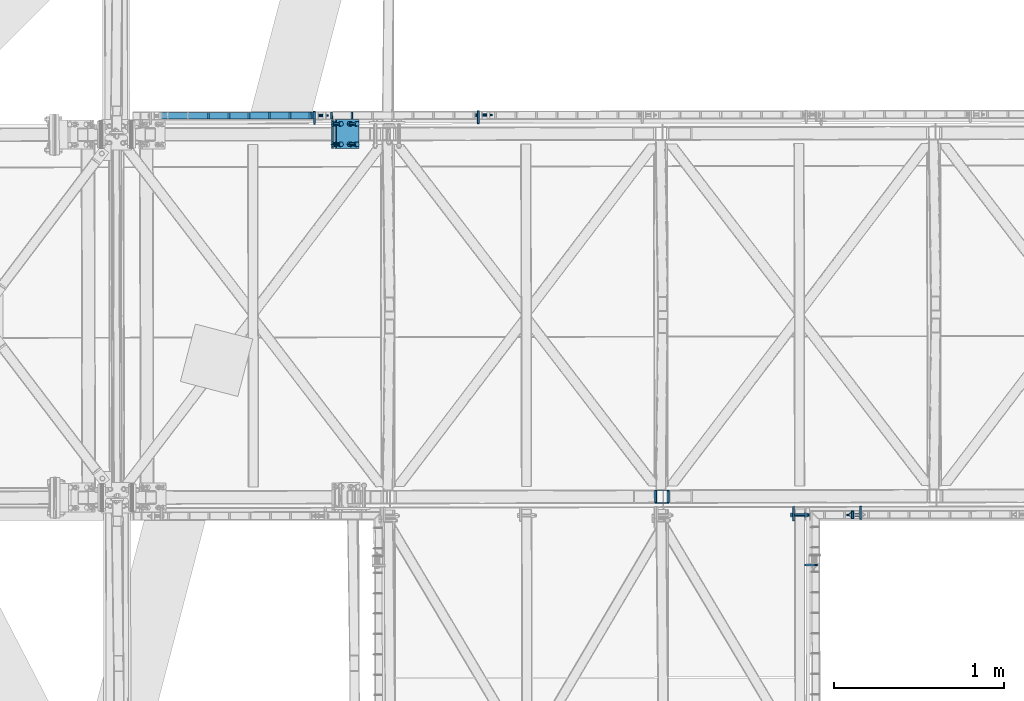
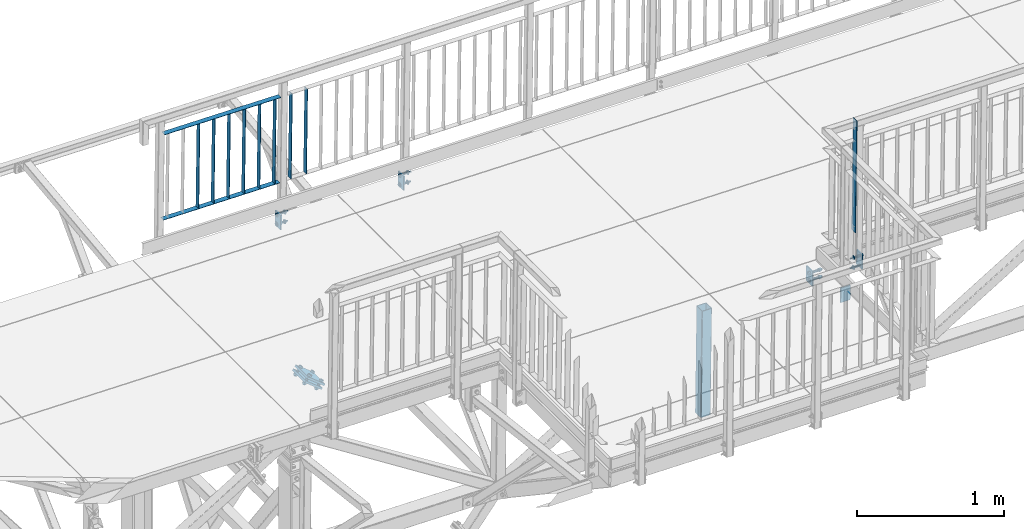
# One storey, part 111 of 169: 20 discrete accessories, 5 mechanical fasteners, 5 elements without a shape of their own.
"""IFC2X3 building model written with IfcOpenShell, lengths in millimetres."""

import ifcopenshell
import ifcopenshell.guid

model = None  # the IFC model being written
_history = None  # IfcOwnerHistory: only IFC2X3 demands one
_inside = {}  # id of a spatial element -> (the spatial element, [elements in it])
_under = {}  # id of a project, library or spatial element -> (it, [spatial elements below it])
_declared = {}  # id of a project -> (the project, [libraries it declares])
_typed = {}  # id of a type object -> (the type object, [elements of that type])
_made_of = {}  # id of a material, layer set ... -> (it, [elements and type objects made of it])


def new_model(schema):
    """Start an empty IFC model of exactly this schema.

    Asked for "IFC4X3", IfcOpenShell would pick the latest addendum, in which some entities
    have other attributes; the version numbers below select the first issue.
    IFC2X3 requires an IfcOwnerHistory on every rooted entity: one is made here for all.
    """
    global model, _history
    if schema == "IFC4X3":
        model = ifcopenshell.file(schema_version=(4, 3, 0, 0))
    else:
        model = ifcopenshell.file(schema=schema)
    _inside.clear()
    _under.clear()
    _declared.clear()
    _typed.clear()
    _made_of.clear()
    _history = None
    if model.schema == "IFC2X3":
        org = make("IfcOrganization", Name="unknown")
        user = make(
            "IfcPersonAndOrganization",
            ThePerson=make("IfcPerson", FamilyName="unknown"),
            TheOrganization=org,
        )
        app = make(
            "IfcApplication",
            ApplicationDeveloper=org,
            Version="unknown",
            ApplicationFullName="unknown",
            ApplicationIdentifier="unknown",
        )
        _history = make(
            "IfcOwnerHistory",
            OwningUser=user,
            OwningApplication=app,
            ChangeAction="ADDED",
            CreationDate=0,
        )
    return model


def make(cls, **values):
    """One entity of the class cls with the attributes given. An attribute that is None is left unset."""
    return model.create_entity(
        cls, **{name: value for name, value in values.items() if value is not None}
    )


def rooted(cls, **values):
    """An entity with a GlobalId (a new one), such as an element, a storey or a relation."""
    return make(cls, GlobalId=ifcopenshell.guid.new(), OwnerHistory=_history, **values)


def si_unit(unit_type, name, prefix=None):
    """IfcSIUnit, for example si_unit("LENGTHUNIT", "METRE", prefix="MILLI")."""
    return make("IfcSIUnit", UnitType=unit_type, Prefix=prefix, Name=name)


def assignment(units):
    """IfcUnitAssignment: the units of a project."""
    return None if units is None else make("IfcUnitAssignment", Units=units)


def point(xyz):
    """IfcCartesianPoint."""
    return None if xyz is None else make("IfcCartesianPoint", Coordinates=xyz)


def direction(xyz):
    """IfcDirection."""
    return None if xyz is None else make("IfcDirection", DirectionRatios=xyz)


def frame(location, z_axis=None, x_axis=None):
    """IfcAxis2Placement3D, a coordinate frame: its origin and axes. An axis left out is left unset."""
    return make(
        "IfcAxis2Placement3D",
        Location=point(location),
        Axis=direction(z_axis),
        RefDirection=direction(x_axis),
    )


def frame_2d(location, x_axis=None):
    """IfcAxis2Placement2D, a coordinate frame in the plane: its origin and x axis."""
    return make(
        "IfcAxis2Placement2D", Location=point(location), RefDirection=direction(x_axis)
    )


def origin_with_axes():
    """The frame at (0, 0, 0) with the z axis (0, 0, 1) and the x axis (1, 0, 0) written out."""
    return frame((0.0, 0.0, 0.0), z_axis=(0.0, 0.0, 1.0), x_axis=(1.0, 0.0, 0.0))


def origin_2d_with_axis():
    """The frame at (0, 0) in the plane with the x axis (1, 0) written out."""
    return frame_2d((0.0, 0.0), x_axis=(1.0, 0.0))


def place(relative_to, where):
    """IfcLocalPlacement: puts the frame where relative to a parent placement (None: the world)."""
    return make(
        "IfcLocalPlacement", PlacementRelTo=relative_to, RelativePlacement=where
    )


def context(
    kind, dimensions, precision=None, world=None, true_north=None, identifier=None
):
    """IfcGeometricRepresentationContext, for example the 3D "Model" context."""
    return make(
        "IfcGeometricRepresentationContext",
        ContextIdentifier=identifier,
        ContextType=kind,
        CoordinateSpaceDimension=dimensions,
        Precision=precision,
        WorldCoordinateSystem=world,
        TrueNorth=true_north,
    )


def subcontext(parent, identifier, kind, view, scale=None):
    """IfcGeometricRepresentationSubContext, for example "Body" below "Model"."""
    return make(
        "IfcGeometricRepresentationSubContext",
        ContextIdentifier=identifier,
        ContextType=kind,
        ParentContext=parent,
        TargetScale=scale,
        TargetView=view,
    )


def project(units=None, contexts=None):
    """IfcProject with its units and contexts."""
    return rooted(
        "IfcProject",
        Name="project",
        RepresentationContexts=contexts,
        UnitsInContext=assignment(units),
    )


def spatial(cls, under=None, at=None, **own):
    """A site, building, storey or space (cls), placed at a placement, below another one or the project."""
    s = rooted(cls, ObjectPlacement=at, **own)
    if under is not None:
        _under.setdefault(under.id(), (under, []))[1].append(s)
    return s


def polyline(points):
    """IfcPolyline through the points."""
    return make("IfcPolyline", Points=[point(p) for p in points])


def circle_curve(where, radius):
    """IfcCircle in the frame where."""
    return make("IfcCircle", Position=where, Radius=radius)


def parameter(value):
    """IfcParameterValue: where a trimmed curve begins or ends, as a parameter of its basis curve."""
    return model.create_entity("IfcParameterValue", value)


def trimmed(basis, trim1, trim2, sense, master):
    """IfcTrimmedCurve: the piece of a basis curve between two trims."""
    return make(
        "IfcTrimmedCurve",
        BasisCurve=basis,
        Trim1=trim1,
        Trim2=trim2,
        SenseAgreement=sense,
        MasterRepresentation=master,
    )


def segment(curve, same_sense, transition):
    """IfcCompositeCurveSegment."""
    return make(
        "IfcCompositeCurveSegment",
        Transition=transition,
        SameSense=same_sense,
        ParentCurve=curve,
    )


def composite_curve(segments, self_intersect=None):
    """IfcCompositeCurve: segments joined end to end."""
    return make("IfcCompositeCurve", Segments=segments, SelfIntersect=self_intersect)


def profile(cls, at=None, kind="AREA", **sizes):
    """A parametric profile (cls). Its sizes go by their IFC names, for example OverallWidth=200.0."""
    return make(cls, ProfileType=kind, Position=at, **sizes)


def rectangle(**sizes):
    """IfcRectangleProfileDef."""
    return profile("IfcRectangleProfileDef", **sizes)


def hollow_rectangle(**sizes):
    """IfcRectangleHollowProfileDef."""
    return profile("IfcRectangleHollowProfileDef", **sizes)


def circle(**sizes):
    """IfcCircleProfileDef."""
    return profile("IfcCircleProfileDef", **sizes)


def outline(outer, holes=None, kind="AREA"):
    """IfcArbitraryClosedProfileDef: a profile drawn as a closed curve; with holes, ...WithVoids."""
    if holes is None:
        return make("IfcArbitraryClosedProfileDef", ProfileType=kind, OuterCurve=outer)
    return make(
        "IfcArbitraryProfileDefWithVoids",
        ProfileType=kind,
        OuterCurve=outer,
        InnerCurves=holes,
    )


def extrude(swept, where, along, depth):
    """IfcExtrudedAreaSolid: the profile swept, set in the frame where, extruded along a direction by depth."""
    return make(
        "IfcExtrudedAreaSolid",
        SweptArea=swept,
        Position=where,
        ExtrudedDirection=direction(along),
        Depth=depth,
    )


def boolean(op, a, b):
    """IfcBooleanResult of two solids."""
    return make("IfcBooleanResult", Operator=op, FirstOperand=a, SecondOperand=b)


def clip(a, b, op="DIFFERENCE"):
    """IfcBooleanClippingResult: the solid a cut by the half space b."""
    return make(
        "IfcBooleanClippingResult", Operator=op, FirstOperand=a, SecondOperand=b
    )


def halfspace(plane, agree):
    """IfcHalfSpaceSolid: all space on one side of the plane z = 0 of the frame plane."""
    return make(
        "IfcHalfSpaceSolid",
        BaseSurface=make("IfcPlane", Position=plane),
        AgreementFlag=agree,
    )


def shape(context_of_items, identifier, shape_type, items):
    """IfcShapeRepresentation: the items that make up one representation, for example the "Body"."""
    return make(
        "IfcShapeRepresentation",
        ContextOfItems=context_of_items,
        RepresentationIdentifier=identifier,
        RepresentationType=shape_type,
        Items=items,
    )


def source(mapping_origin, context_of_items, identifier, shape_type, items):
    """IfcRepresentationMap: a shape defined once, which mapped items show again and again."""
    return make(
        "IfcRepresentationMap",
        MappingOrigin=mapping_origin,
        MappedRepresentation=shape(context_of_items, identifier, shape_type, items),
    )


def transform(
    local_origin,
    x_axis=None,
    y_axis=None,
    z_axis=None,
    scale=None,
    scale2=None,
    scale3=None,
    uniform=True,
):
    """IfcCartesianTransformationOperator3D, or its non-uniform kind. x_axis, y_axis, z_axis: its Axis1, 2, 3."""
    if uniform:
        return make(
            "IfcCartesianTransformationOperator3D",
            Axis1=direction(x_axis),
            Axis2=direction(y_axis),
            LocalOrigin=point(local_origin),
            Scale=scale,
            Axis3=direction(z_axis),
        )
    return make(
        "IfcCartesianTransformationOperator3DnonUniform",
        Axis1=direction(x_axis),
        Axis2=direction(y_axis),
        LocalOrigin=point(local_origin),
        Scale=scale,
        Axis3=direction(z_axis),
        Scale2=scale2,
        Scale3=scale3,
    )


def mapped(mapping_source, mapping_target):
    """IfcMappedItem: shows the shape of a source again, moved by a transform."""
    return make(
        "IfcMappedItem", MappingSource=mapping_source, MappingTarget=mapping_target
    )


def material(Name=None, Category=None):
    """IfcMaterial."""
    return make("IfcMaterial", Name=Name, Category=Category)


def made_of(thing, what):
    """Note that an element or type object is made of a material, layer set ...; save() writes the relation."""
    if what is not None:
        _made_of.setdefault(what.id(), (what, []))[1].append(thing)
    return thing


def type_object(cls, material=None, **own):
    """A type object (cls), such as IfcWallType, which elements share."""
    return made_of(rooted(cls, **own), material)


def element(
    cls,
    number,
    at=None,
    inside=None,
    cuts=None,
    type_object=None,
    material=None,
    context=None,
    identifier="Body",
    shape_type=None,
    held_by="IfcProductDefinitionShape",
    body=None,
    shapes=None,
    **own,
):
    """One element of the class cls, such as IfcWall. Its Tag is "e" and its number.

    at: its placement. inside: the storey or other place that contains it. cuts: it is an
    opening in that element (IfcRelVoidsElement). A single representation is given by context,
    identifier, shape_type and body (its items); several are given by shapes. held_by: the class
    of the entity that holds the representations. save() writes the other relations.
    """
    e = rooted(cls, Tag="e%d" % number, ObjectPlacement=at, **own)
    if body is not None:
        shapes = [shape(context, identifier, shape_type, body)]
    if shapes is not None:
        e.Representation = make(held_by, Representations=shapes)
    if inside is not None:
        _inside.setdefault(inside.id(), (inside, []))[1].append(e)
    if cuts is not None:
        rooted(
            "IfcRelVoidsElement", RelatingBuildingElement=cuts, RelatedOpeningElement=e
        )
    if type_object is not None:
        _typed.setdefault(type_object.id(), (type_object, []))[1].append(e)
    return made_of(e, material)


def aggregate(whole, parts):
    """IfcRelAggregates: a whole, such as a stair, and the parts it consists of."""
    return rooted("IfcRelAggregates", RelatingObject=whole, RelatedObjects=parts)


def save(model, path):
    """Write the relations noted so far, then the file.

    IfcRelAggregates (storeys below a building ...), IfcRelContainedInSpatialStructure (elements
    in a storey), IfcRelDefinesByType, IfcRelAssociatesMaterial and IfcRelDeclares: one each for
    every whole, place, type object, material and project.
    """
    for whole, parts in _under.values():
        aggregate(whole, parts)
    for where, things in _inside.values():
        rooted(
            "IfcRelContainedInSpatialStructure",
            RelatedElements=things,
            RelatingStructure=where,
        )
    for kind, things in _typed.values():
        rooted("IfcRelDefinesByType", RelatedObjects=things, RelatingType=kind)
    for what, things in _made_of.values():
        rooted("IfcRelAssociatesMaterial", RelatedObjects=things, RelatingMaterial=what)
    for by, libraries in _declared.values():
        rooted("IfcRelDeclares", RelatingContext=by, RelatedDefinitions=libraries)
    model.write(path)


model = new_model("IFC2X3")

# Units and contexts
model_context = context("Model", 3, precision=1e-05, world=origin_with_axes())
body_context = subcontext(model_context, "Body", "Model", "MODEL_VIEW")
ifc_project = project(units=[si_unit("LENGTHUNIT", "METRE", prefix="MILLI"), si_unit("AREAUNIT", "SQUARE_METRE"), si_unit("VOLUMEUNIT", "CUBIC_METRE"), si_unit("MASSUNIT", "GRAM", prefix="KILO"), si_unit("TIMEUNIT", "SECOND"), si_unit("PLANEANGLEUNIT", "RADIAN"), si_unit("SOLIDANGLEUNIT", "STERADIAN"), si_unit("THERMODYNAMICTEMPERATUREUNIT", "DEGREE_CELSIUS"), si_unit("LUMINOUSINTENSITYUNIT", "LUMEN")], contexts=[model_context])

# Site, building, storey
site_placement = place(None, origin_with_axes())
site = spatial("IfcSite", under=ifc_project, at=site_placement, Name="Undefined", CompositionType="ELEMENT")
building_placement = place(site_placement, origin_with_axes())
building = spatial("IfcBuilding", under=site, at=building_placement, Name="Undefined", CompositionType="ELEMENT")
storey_placement = place(building_placement, origin_with_axes())
storey = spatial("IfcBuildingStorey", under=building, at=storey_placement, Name="Undefined", CompositionType="ELEMENT", Elevation=0.0)

# Assembly, discrete accessories
assembly_1_placement = place(storey_placement, origin_with_axes())
assembly_1 = element("IfcElementAssembly", 1, at=assembly_1_placement, inside=storey, Name="Steel Assembly", AssemblyPlace="NOTDEFINED", PredefinedType="RIGID_FRAME")
ifc_material_1 = material(Name="STEEL/S235")
discrete_accessory_type_1 = type_object("IfcDiscreteAccessoryType", Name="BLACHA")
discrete_accessory_1_placement = place(assembly_1_placement, frame((8254.43885092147, 2320.41128077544, 13849.2717714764), z_axis=(0.9999174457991, 0.00186469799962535, -0.0127131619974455), x_axis=(-0.0018648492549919, 0.999998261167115, -4.2996762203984e-08)))
discrete_accessory_1 = element("IfcDiscreteAccessory", 2, at=discrete_accessory_1_placement, type_object=discrete_accessory_type_1, material=ifc_material_1, Name="BLACHA", ObjectType="BL10*120", context=body_context, shape_type="SweptSolid", body=[
    extrude(outline(polyline([(-5.35749222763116e-11, -59.9999999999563), (5.3567816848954e-11, 59.9999999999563), (75.0000002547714, 59.9999999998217), (75.0000002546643, -60.0000000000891), (-5.35749222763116e-11, -59.9999999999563)])), frame((-1.81898926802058e-12, -1.18000176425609e-16, -5.00000000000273), z_axis=(0.0, 0.0, 1.0), x_axis=(1.0, 0.0, 0.0)), (0.0, 0.0, 1.0), 10.0),
])
discrete_accessory_2_placement = place(assembly_1_placement, frame((7287.82419699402, 2318.60868851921, 13861.5615147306), z_axis=(0.9999174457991, 0.00186469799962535, -0.0127131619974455), x_axis=(-0.0018648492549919, 0.999998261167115, -4.2996762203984e-08)))
discrete_accessory_2 = element("IfcDiscreteAccessory", 3, at=discrete_accessory_2_placement, type_object=discrete_accessory_type_1, material=ifc_material_1, Name="BLACHA", ObjectType="BL10*120", context=body_context, shape_type="SweptSolid", body=[
    extrude(outline(polyline([(-5.35749222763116e-11, -59.9999999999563), (5.3567816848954e-11, 59.9999999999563), (75.0000002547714, 59.9999999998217), (75.0000002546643, -60.0000000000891), (-5.35749222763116e-11, -59.9999999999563)])), frame((-1.81898926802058e-12, -1.18000176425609e-16, -5.00000000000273), z_axis=(0.0, 0.0, 1.0), x_axis=(1.0, 0.0, 0.0)), (0.0, 0.0, 1.0), 10.0),
])

# Assembly, discrete accessory
assembly_2_placement = place(storey_placement, origin_with_axes())
assembly_2 = element("IfcElementAssembly", 4, at=assembly_2_placement, inside=storey, Name="Steel Assembly", AssemblyPlace="NOTDEFINED", PredefinedType="RIGID_FRAME")
discrete_accessory_3_placement = place(assembly_2_placement, frame((10178.2495339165, -281.005632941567, 13824.8739119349), z_axis=(0.00186484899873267, -0.999998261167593, 4.28757666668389e-08), x_axis=(0.9999174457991, 0.00186469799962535, -0.0127131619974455)))
discrete_accessory_3 = element("IfcDiscreteAccessory", 5, at=discrete_accessory_3_placement, type_object=discrete_accessory_type_1, material=ifc_material_1, Name="BLACHA", ObjectType="BL10*120", context=body_context, shape_type="SweptSolid", body=[
    extrude(outline(polyline([(-5.35749222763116e-11, -59.9999999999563), (5.3567816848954e-11, 59.9999999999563), (75.0000002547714, 59.9999999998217), (75.0000002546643, -60.0000000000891), (-5.35749222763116e-11, -59.9999999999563)])), frame((-1.81898926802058e-12, -1.18000176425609e-16, -5.00000000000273), z_axis=(0.0, 0.0, 1.0), x_axis=(1.0, 0.0, 0.0)), (0.0, 0.0, 1.0), 10.0),
])

assembly_3_placement = place(storey_placement, origin_with_axes())
assembly_3 = element("IfcElementAssembly", 6, at=assembly_3_placement, inside=storey, Name="Steel Assembly", AssemblyPlace="NOTDEFINED", PredefinedType="RIGID_FRAME")
discrete_accessory_4_placement = place(assembly_3_placement, frame((10453.3199067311, 39.5079025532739, 14080.3899411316), z_axis=(-0.999917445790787, -0.00186469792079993, 0.0127131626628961), x_axis=(0.00186484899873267, -0.999998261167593, 4.28757666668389e-08)))
discrete_accessory_4 = element("IfcDiscreteAccessory", 7, at=discrete_accessory_4_placement, type_object=discrete_accessory_type_1, material=ifc_material_1, Name="BLACHA", ObjectType="BL5*50", context=body_context, shape_type="SweptSolid", body=[
    extrude(outline(polyline([(0.0, 0.0), (50.0000000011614, 3.27418092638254e-11), (50.0000000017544, 926.000000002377), (3.10365066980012e-08, 926.000000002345), (0.0, 0.0)])), frame((6.80888809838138e-19, -2.87858853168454e-21, -2.49999999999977), z_axis=(0.0, 0.0, 1.0), x_axis=(1.0, 0.0, 0.0)), (0.0, 0.0, 1.0), 5.0),
])

# Discrete accessory
discrete_accessory_5_placement = place(assembly_1_placement, frame((10507.475835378, 64.6089279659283, 13820.6798644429), z_axis=(-0.999917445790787, -0.00186469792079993, 0.0127131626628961), x_axis=(0.00186484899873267, -0.999998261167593, 4.28757666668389e-08)))
discrete_accessory_5 = element("IfcDiscreteAccessory", 8, at=discrete_accessory_5_placement, type_object=discrete_accessory_type_1, material=ifc_material_1, Name="BLACHA", ObjectType="BL10*120", context=body_context, shape_type="SweptSolid", body=[
    extrude(outline(polyline([(75.0000002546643, -60.0000000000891), (-5.35749222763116e-11, -59.9999999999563), (5.3567816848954e-11, 59.9999999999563), (75.0000002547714, 59.9999999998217), (75.0000002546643, -60.0000000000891)])), frame((-1.81898926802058e-12, -1.18000176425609e-16, -5.00000000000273), z_axis=(0.0, 0.0, 1.0), x_axis=(1.0, 0.0, 0.0)), (0.0, 0.0, 1.0), 10.0),
])

# Assembly, discrete accessory
assembly_4_placement = place(storey_placement, origin_with_axes())
assembly_4 = element("IfcElementAssembly", 9, at=assembly_4_placement, inside=storey, Name="Steel Assembly", AssemblyPlace="NOTDEFINED", PredefinedType="RIGID_FRAME")
ifc_material_2 = material(Name="STEEL/S355")
discrete_accessory_6_placement = place(assembly_4_placement, frame((7526.57881452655, 2259.05382954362, 12487.42078595), z_axis=(-0.0018648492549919, 0.999998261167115, -4.2996762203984e-08), x_axis=(-0.784458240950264, -0.00146288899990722, 0.620179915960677)))
discrete_accessory_6 = element("IfcDiscreteAccessory", 10, at=discrete_accessory_6_placement, type_object=discrete_accessory_type_1, material=ifc_material_2, Name="BLACHA", ObjectType="BL16*170", context=body_context, shape_type="SweptSolid", body=[
    extrude(rectangle(XDim=16.0, YDim=170.0, at=origin_2d_with_axis()), frame((169.999999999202, 0.0, -3.62691994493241e-12), z_axis=(-1.0, -3.46944695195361e-18, -1.38777878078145e-17), x_axis=(1.73472347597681e-18, -1.0, 0.0)), (0.0, 0.0, 1.0), 170.0),
])

# Discrete accessory
discrete_accessory_7_placement = place(assembly_1_placement, frame((7546.42453772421, 2259.09083832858, 12512.5234929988), z_axis=(-0.0018648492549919, 0.999998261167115, -4.2996762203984e-08), x_axis=(-0.784458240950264, -0.00146288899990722, 0.620179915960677)))
discrete_accessory_7 = element("IfcDiscreteAccessory", 11, at=discrete_accessory_7_placement, type_object=discrete_accessory_type_1, material=ifc_material_2, Name="BLACHA", ObjectType="BL16*170", context=body_context, shape_type="SweptSolid", body=[
    extrude(rectangle(XDim=16.0, YDim=170.0, at=origin_2d_with_axis()), frame((169.999999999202, 0.0, -3.62691994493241e-12), z_axis=(-1.0, -3.46944695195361e-18, -1.38777878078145e-17), x_axis=(1.73472347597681e-18, -1.0, 0.0)), (0.0, 0.0, 1.0), 170.0),
])

discrete_accessory_type_2 = type_object("IfcDiscreteAccessoryType", Name="BEAM")
discrete_accessory_8_placement = place(assembly_1_placement, frame((9329.85004129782, 122.4128926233, 12835.5700898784), z_axis=(-0.999917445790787, -0.00186469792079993, 0.0127131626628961), x_axis=(0.012713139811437, 2.3750999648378e-05, 0.999919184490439)))
discrete_accessory_8 = element("IfcDiscreteAccessory", 12, at=discrete_accessory_8_placement, type_object=discrete_accessory_type_2, material=ifc_material_2, Name="BEAM", ObjectType="K80/4", context=body_context, shape_type="Clipping", body=[
    clip(clip(extrude(hollow_rectangle(XDim=80.0, YDim=80.0, WallThickness=4.0, InnerFilletRadius=4.0, OuterFilletRadius=8.0, at=origin_2d_with_axis()), frame((940.000112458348, 4.54747487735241e-13, 0.0), z_axis=(-1.0, -3.46944695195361e-18, -1.38777878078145e-17), x_axis=(1.73472347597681e-18, -1.0, 0.0)), (0.0, 0.0, 1.0), 880.0), halfspace(frame((940.000112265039, -6.72889655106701e-09, 999.999999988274), z_axis=(-1.0, -3.46944695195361e-18, -1.38777878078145e-17), x_axis=(1.73472347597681e-18, -1.0, 0.0)), True)), halfspace(frame((60.0001122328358, 8.14088707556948e-09, 1000.00000001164), z_axis=(1.0, 0.0, 0.0), x_axis=(0.0, 1.0, 0.0)), True)),
])

# Assembly, discrete accessories
assembly_5_placement = place(storey_placement, origin_with_axes())
assembly_5 = element("IfcElementAssembly", 13, at=assembly_5_placement, inside=storey, Name="Steel Assembly", AssemblyPlace="NOTDEFINED", PredefinedType="RIGID_FRAME")
discrete_accessory_type_3 = type_object("IfcDiscreteAccessoryType", Name="PORĘCZ")
discrete_accessory_9_placement = place(assembly_5_placement, frame((6364.01766114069, 2366.88605238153, 14888.3878328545), z_axis=(-0.012713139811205, -2.37511238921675e-05, -0.999919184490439), x_axis=(0.9999174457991, 0.00186469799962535, -0.0127131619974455)))
discrete_accessory_9 = element("IfcDiscreteAccessory", 14, at=discrete_accessory_9_placement, type_object=discrete_accessory_type_3, material=ifc_material_1, Name="PORĘCZ", ObjectType="BL40*3", context=body_context, shape_type="CSG", body=[
    boolean("DIFFERENCE", boolean("DIFFERENCE", extrude(outline(polyline([(25.4999999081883, 20.0000000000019), (941.194458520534, 20.0000000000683), (941.194458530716, -19.9999999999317), (25.499999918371, -19.9999999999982), (25.4999999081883, 20.0000000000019)])), frame((1.81898940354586e-12, -1.77635442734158e-15, -1.50000000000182), z_axis=(0.0, 0.0, 1.0), x_axis=(1.0, 0.0, 0.0)), (0.0, 0.0, 1.0), 3.0), extrude(rectangle(XDim=51.0, YDim=51.0, at=origin_2d_with_axis()), frame((-5.94487782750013e-08, -4.65977194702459e-09, -139.999999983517), z_axis=(0.0, 0.0, 1.0), x_axis=(1.0, 0.0, 0.0)), (0.0, 0.0, 1.0), 280.0)), extrude(rectangle(XDim=51.0, YDim=51.0, at=origin_2d_with_axis()), frame((966.694458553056, -6.96000839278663e-09, -139.999999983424), z_axis=(0.0, 0.0, 1.0), x_axis=(1.0, 0.0, 0.0)), (0.0, 0.0, 1.0), 280.0)),
])
discrete_accessory_10_placement = place(assembly_5_placement, frame((6669.18325300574, 2367.45514726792, 15029.5196121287), z_axis=(0.00186484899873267, -0.999998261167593, 4.28757666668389e-08), x_axis=(-0.012713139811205, -2.37511238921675e-05, -0.999919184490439)))
discrete_accessory_10 = element("IfcDiscreteAccessory", 15, at=discrete_accessory_10_placement, type_object=discrete_accessory_type_3, material=ifc_material_1, Name="PORĘCZ", ObjectType="BL40*3", context=body_context, shape_type="Clipping", body=[
    clip(clip(extrude(rectangle(XDim=3.0, YDim=40.0, at=origin_2d_with_axis()), frame((848.500000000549, 1.47191286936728e-15, -8.89750592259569e-16), z_axis=(-1.0, -3.46944695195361e-18, -1.38777878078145e-17), x_axis=(1.73472347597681e-18, -1.0, 0.0)), (0.0, 0.0, 1.0), 702.0), halfspace(frame((848.499999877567, 4.522007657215e-09, 1000.00000000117), z_axis=(-1.0, -3.46944695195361e-18, -1.38777878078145e-17), x_axis=(1.73472347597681e-18, -1.0, 0.0)), True)), halfspace(frame((146.499999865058, 4.97311702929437e-09, 1000.00000000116), z_axis=(1.0, 0.0, 0.0), x_axis=(0.0, 1.0, 0.0)), True)),
])
discrete_accessory_11_placement = place(assembly_5_placement, frame((6789.17334650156, 2367.67891102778, 15027.994032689), z_axis=(0.00186484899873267, -0.999998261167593, 4.28757666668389e-08), x_axis=(-0.012713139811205, -2.37511238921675e-05, -0.999919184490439)))
discrete_accessory_11 = element("IfcDiscreteAccessory", 16, at=discrete_accessory_11_placement, type_object=discrete_accessory_type_3, material=ifc_material_1, Name="PORĘCZ", ObjectType="BL40*3", context=body_context, shape_type="Clipping", body=[
    clip(clip(extrude(rectangle(XDim=3.0, YDim=40.0, at=origin_2d_with_axis()), frame((848.500000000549, 1.47191286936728e-15, -8.89750592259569e-16), z_axis=(-1.0, -3.46944695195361e-18, -1.38777878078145e-17), x_axis=(1.73472347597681e-18, -1.0, 0.0)), (0.0, 0.0, 1.0), 702.0), halfspace(frame((848.499999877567, 4.522007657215e-09, 1000.00000000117), z_axis=(-1.0, -3.46944695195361e-18, -1.38777878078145e-17), x_axis=(1.73472347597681e-18, -1.0, 0.0)), True)), halfspace(frame((146.499999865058, 4.97311702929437e-09, 1000.00000000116), z_axis=(1.0, 0.0, 0.0), x_axis=(0.0, 1.0, 0.0)), True)),
])
discrete_accessory_12_placement = place(assembly_5_placement, frame((6909.1634399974, 2367.90267478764, 15026.4684532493), z_axis=(0.00186484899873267, -0.999998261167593, 4.28757666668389e-08), x_axis=(-0.012713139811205, -2.37511238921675e-05, -0.999919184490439)))
discrete_accessory_12 = element("IfcDiscreteAccessory", 17, at=discrete_accessory_12_placement, type_object=discrete_accessory_type_3, material=ifc_material_1, Name="PORĘCZ", ObjectType="BL40*3", context=body_context, shape_type="Clipping", body=[
    clip(clip(extrude(rectangle(XDim=3.0, YDim=40.0, at=origin_2d_with_axis()), frame((848.500000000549, 1.47191286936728e-15, -8.89750592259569e-16), z_axis=(-1.0, -3.46944695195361e-18, -1.38777878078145e-17), x_axis=(1.73472347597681e-18, -1.0, 0.0)), (0.0, 0.0, 1.0), 702.0), halfspace(frame((848.499999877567, 4.522007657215e-09, 1000.00000000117), z_axis=(-1.0, -3.46944695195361e-18, -1.38777878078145e-17), x_axis=(1.73472347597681e-18, -1.0, 0.0)), True)), halfspace(frame((146.499999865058, 4.97311702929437e-09, 1000.00000000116), z_axis=(1.0, 0.0, 0.0), x_axis=(0.0, 1.0, 0.0)), True)),
])
discrete_accessory_13_placement = place(assembly_5_placement, frame((7029.15353349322, 2368.12643854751, 15024.9428738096), z_axis=(0.00186484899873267, -0.999998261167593, 4.28757666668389e-08), x_axis=(-0.012713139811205, -2.37511238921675e-05, -0.999919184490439)))
discrete_accessory_13 = element("IfcDiscreteAccessory", 18, at=discrete_accessory_13_placement, type_object=discrete_accessory_type_3, material=ifc_material_1, Name="PORĘCZ", ObjectType="BL40*3", context=body_context, shape_type="Clipping", body=[
    clip(clip(extrude(rectangle(XDim=3.0, YDim=40.0, at=origin_2d_with_axis()), frame((848.500000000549, 1.47191286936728e-15, -8.89750592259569e-16), z_axis=(-1.0, -3.46944695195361e-18, -1.38777878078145e-17), x_axis=(1.73472347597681e-18, -1.0, 0.0)), (0.0, 0.0, 1.0), 702.0), halfspace(frame((848.499999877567, 4.522007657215e-09, 1000.00000000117), z_axis=(-1.0, -3.46944695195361e-18, -1.38777878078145e-17), x_axis=(1.73472347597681e-18, -1.0, 0.0)), True)), halfspace(frame((146.499999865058, 4.97311702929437e-09, 1000.00000000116), z_axis=(1.0, 0.0, 0.0), x_axis=(0.0, 1.0, 0.0)), True)),
])
discrete_accessory_14_placement = place(assembly_5_placement, frame((7149.14362698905, 2368.35020230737, 15023.4172943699), z_axis=(0.00186484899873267, -0.999998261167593, 4.28757666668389e-08), x_axis=(-0.012713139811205, -2.37511238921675e-05, -0.999919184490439)))
discrete_accessory_14 = element("IfcDiscreteAccessory", 19, at=discrete_accessory_14_placement, type_object=discrete_accessory_type_3, material=ifc_material_1, Name="PORĘCZ", ObjectType="BL40*3", context=body_context, shape_type="Clipping", body=[
    clip(clip(extrude(rectangle(XDim=3.0, YDim=40.0, at=origin_2d_with_axis()), frame((848.500000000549, 1.47191286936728e-15, -8.89750592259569e-16), z_axis=(-1.0, -3.46944695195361e-18, -1.38777878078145e-17), x_axis=(1.73472347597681e-18, -1.0, 0.0)), (0.0, 0.0, 1.0), 702.0), halfspace(frame((848.499999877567, 4.522007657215e-09, 1000.00000000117), z_axis=(-1.0, -3.46944695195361e-18, -1.38777878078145e-17), x_axis=(1.73472347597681e-18, -1.0, 0.0)), True)), halfspace(frame((146.499999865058, 4.97311702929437e-09, 1000.00000000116), z_axis=(1.0, 0.0, 0.0), x_axis=(0.0, 1.0, 0.0)), True)),
])
discrete_accessory_15_placement = place(assembly_5_placement, frame((7269.13372048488, 2368.57396606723, 15021.8917149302), z_axis=(0.00186484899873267, -0.999998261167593, 4.28757666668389e-08), x_axis=(-0.012713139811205, -2.37511238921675e-05, -0.999919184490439)))
discrete_accessory_15 = element("IfcDiscreteAccessory", 20, at=discrete_accessory_15_placement, type_object=discrete_accessory_type_3, material=ifc_material_1, Name="PORĘCZ", ObjectType="BL40*3", context=body_context, shape_type="Clipping", body=[
    clip(clip(extrude(rectangle(XDim=3.0, YDim=40.0, at=origin_2d_with_axis()), frame((848.500000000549, 1.47191286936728e-15, -8.89750592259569e-16), z_axis=(-1.0, -3.46944695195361e-18, -1.38777878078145e-17), x_axis=(1.73472347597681e-18, -1.0, 0.0)), (0.0, 0.0, 1.0), 702.0), halfspace(frame((848.499999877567, 4.522007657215e-09, 1000.00000000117), z_axis=(-1.0, -3.46944695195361e-18, -1.38777878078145e-17), x_axis=(1.73472347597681e-18, -1.0, 0.0)), True)), halfspace(frame((146.499999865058, 4.97311702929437e-09, 1000.00000000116), z_axis=(1.0, 0.0, 0.0), x_axis=(0.0, 1.0, 0.0)), True)),
])
discrete_accessory_16_placement = place(assembly_5_placement, frame((7395.8177199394, 2368.81021297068, 15020.2810277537), z_axis=(0.00186484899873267, -0.999998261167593, 4.28757666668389e-08), x_axis=(-0.012713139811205, -2.37511238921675e-05, -0.999919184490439)))
discrete_accessory_16 = element("IfcDiscreteAccessory", 21, at=discrete_accessory_16_placement, type_object=discrete_accessory_type_3, material=ifc_material_1, Name="PORĘCZ", ObjectType="BL40*3", context=body_context, shape_type="Clipping", body=[
    clip(clip(extrude(rectangle(XDim=3.0, YDim=40.0, at=origin_2d_with_axis()), frame((848.500000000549, 1.47191286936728e-15, -8.89750592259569e-16), z_axis=(-1.0, -3.46944695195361e-18, -1.38777878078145e-17), x_axis=(1.73472347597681e-18, -1.0, 0.0)), (0.0, 0.0, 1.0), 702.0), halfspace(frame((848.499999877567, 4.522007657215e-09, 1000.00000000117), z_axis=(-1.0, -3.46944695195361e-18, -1.38777878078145e-17), x_axis=(1.73472347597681e-18, -1.0, 0.0)), True)), halfspace(frame((146.499999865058, 4.97311702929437e-09, 1000.00000000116), z_axis=(1.0, 0.0, 0.0), x_axis=(0.0, 1.0, 0.0)), True)),
])
discrete_accessory_17_placement = place(assembly_5_placement, frame((7515.80781343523, 2369.03397673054, 15018.755448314), z_axis=(0.00186484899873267, -0.999998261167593, 4.28757666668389e-08), x_axis=(-0.012713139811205, -2.37511238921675e-05, -0.999919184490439)))
discrete_accessory_17 = element("IfcDiscreteAccessory", 22, at=discrete_accessory_17_placement, type_object=discrete_accessory_type_3, material=ifc_material_1, Name="PORĘCZ", ObjectType="BL40*3", context=body_context, shape_type="Clipping", body=[
    clip(clip(extrude(rectangle(XDim=3.0, YDim=40.0, at=origin_2d_with_axis()), frame((848.500000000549, 1.47191286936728e-15, -8.89750592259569e-16), z_axis=(-1.0, -3.46944695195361e-18, -1.38777878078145e-17), x_axis=(1.73472347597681e-18, -1.0, 0.0)), (0.0, 0.0, 1.0), 702.0), halfspace(frame((848.499999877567, 4.522007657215e-09, 1000.00000000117), z_axis=(-1.0, -3.46944695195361e-18, -1.38777878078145e-17), x_axis=(1.73472347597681e-18, -1.0, 0.0)), True)), halfspace(frame((146.499999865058, 4.97311702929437e-09, 1000.00000000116), z_axis=(1.0, 0.0, 0.0), x_axis=(0.0, 1.0, 0.0)), True)),
])
discrete_accessory_18_placement = place(assembly_5_placement, frame((6355.05489756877, 2366.86930784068, 14183.4448077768), z_axis=(-0.012713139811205, -2.37511238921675e-05, -0.999919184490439), x_axis=(0.9999174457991, 0.00186469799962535, -0.0127131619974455)))
discrete_accessory_18 = element("IfcDiscreteAccessory", 23, at=discrete_accessory_18_placement, type_object=discrete_accessory_type_3, material=ifc_material_1, Name="PORĘCZ", ObjectType="BL40*3", context=body_context, shape_type="CSG", body=[
    boolean("DIFFERENCE", boolean("DIFFERENCE", extrude(outline(polyline([(25.4999999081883, 20.0000000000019), (941.194458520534, 20.0000000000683), (941.194458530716, -19.9999999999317), (25.499999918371, -19.9999999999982), (25.4999999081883, 20.0000000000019)])), frame((1.81898940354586e-12, -1.77635442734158e-15, -1.50000000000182), z_axis=(0.0, 0.0, 1.0), x_axis=(1.0, 0.0, 0.0)), (0.0, 0.0, 1.0), 3.0), extrude(rectangle(XDim=51.0, YDim=51.0, at=origin_2d_with_axis()), frame((-5.94487782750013e-08, -4.65977194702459e-09, -139.999999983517), z_axis=(0.0, 0.0, 1.0), x_axis=(1.0, 0.0, 0.0)), (0.0, 0.0, 1.0), 280.0)), extrude(rectangle(XDim=51.0, YDim=51.0, at=origin_2d_with_axis()), frame((966.694458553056, -6.96000839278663e-09, -139.999999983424), z_axis=(0.0, 0.0, 1.0), x_axis=(1.0, 0.0, 0.0)), (0.0, 0.0, 1.0), 280.0)),
])

# Discrete accessory
discrete_accessory_19_placement = place(assembly_3_placement, frame((10466.3705650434, 14.532235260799, 14981.2974267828), z_axis=(-0.0018648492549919, 0.999998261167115, -4.2996762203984e-08), x_axis=(-0.012713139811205, -2.37511238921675e-05, -0.999919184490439)))
discrete_accessory_19 = element("IfcDiscreteAccessory", 24, at=discrete_accessory_19_placement, type_object=discrete_accessory_type_3, material=ifc_material_1, Name="PORĘCZ", ObjectType="BL40*3", context=body_context, shape_type="Clipping", body=[
    clip(clip(extrude(rectangle(XDim=3.0, YDim=40.0, at=origin_2d_with_axis()), frame((848.500000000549, 1.47191286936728e-15, -8.89750592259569e-16), z_axis=(-1.0, -3.46944695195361e-18, -1.38777878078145e-17), x_axis=(1.73472347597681e-18, -1.0, 0.0)), (0.0, 0.0, 1.0), 702.0), halfspace(frame((848.499999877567, 4.522007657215e-09, 1000.00000000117), z_axis=(-1.0, -3.46944695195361e-18, -1.38777878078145e-17), x_axis=(1.73472347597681e-18, -1.0, 0.0)), True)), halfspace(frame((146.499999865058, 4.97311702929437e-09, 1000.00000000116), z_axis=(1.0, 0.0, 0.0), x_axis=(0.0, 1.0, 0.0)), True)),
])

# Mechanical fastener
ifc_material_3 = material(Name="Undefined")
discrete_accessory_type_4 = type_object("IfcDiscreteAccessoryType", Name="Bolt assembly")
shared_shape_1 = source(origin_with_axes(), body_context, "Body", "SweptSolid", [
    extrude(circle(Radius=9.0, at=origin_2d_with_axis()), frame((0.0, -4.90000000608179, 0.0), z_axis=(0.0, 1.0, 0.0), x_axis=(1.0, 0.0, 0.0)), (0.0, 0.0, 1.0), 10.0),
    extrude(circle(Radius=9.0, at=origin_2d_with_axis()), frame((0.0, 4.89999999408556, 0.0), z_axis=(0.0, 1.0, 0.0), x_axis=(1.0, 0.0, 0.0)), (0.0, 0.0, 1.0), 50.1),
    extrude(outline(polyline([(10.39230484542, 0.0), (5.19615242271, 9.00000000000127), (-5.19615242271, 9.00000000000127), (-10.39230484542, 0.0), (-5.19615242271, -9.00000000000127), (5.19615242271, -9.00000000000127), (10.39230484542, 0.0)])), frame((0.0, -15.5000000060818, 0.0), z_axis=(0.0, 1.0, 0.0), x_axis=(1.0, 0.0, 0.0)), (0.0, 0.0, 1.0), 7.5),
    extrude(circle(Radius=6.0, at=origin_2d_with_axis()), frame((0.0, -8.00000000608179, 0.0), z_axis=(0.0, 1.0, 0.0), x_axis=(1.0, 0.0, 0.0)), (0.0, 0.0, 1.0), 90.0),
    extrude(circle(Radius=18.5, at=origin_2d_with_axis()), frame((0.0, -8.00000000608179, 0.0), z_axis=(0.0, 1.0, 0.0), x_axis=(1.0, 0.0, 0.0)), (0.0, 0.0, 1.0), 3.0),
    extrude(circle(Radius=18.5, at=origin_2d_with_axis()), frame((0.0, 54.9999999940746, 0.0), z_axis=(0.0, 1.0, 0.0), x_axis=(1.0, 0.0, 0.0)), (0.0, 0.0, 1.0), 3.0),
    extrude(outline(polyline([(10.96965511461, 0.0), (5.484827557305, 9.50000000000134), (-5.484827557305, 9.50000000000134), (-10.96965511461, 0.0), (-5.484827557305, -9.50000000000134), (5.484827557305, -9.50000000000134), (10.96965511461, 0.0)])), frame((0.0, 57.9999999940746, 0.0), z_axis=(0.0, 1.0, 0.0), x_axis=(1.0, 0.0, 0.0)), (0.0, 0.0, 1.0), 10.0),
])
mechanical_fastener_1_placement = place(assembly_5_placement, frame((8254.35196504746, 2370.41120253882, 13849.7717289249), z_axis=(0.012712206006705, 0.000523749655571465, 0.999919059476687), x_axis=(0.00187120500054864, -0.999998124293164, 0.00050000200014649)))
mechanical_fastener_1 = element("IfcMechanicalFastener", 25, at=mechanical_fastener_1_placement, type_object=discrete_accessory_type_4, material=ifc_material_3, Name="Bolt assembly", NominalDiameter=12.0, NominalLength=90.0, context=body_context, shape_type="MappedRepresentation", body=[
    mapped(shared_shape_1, transform((-1.15463194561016e-14, 5.45696821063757e-11, -39.9999999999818))),
    mapped(shared_shape_1, transform((8.88178419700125e-15, -5.54791768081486e-11, 39.99999999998))),
])

mechanical_fastener_2_placement = place(assembly_5_placement, frame((7287.73731112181, 2368.60860931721, 13862.0614721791), z_axis=(0.012712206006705, 0.000523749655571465, 0.999919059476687), x_axis=(0.00187120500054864, -0.999998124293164, 0.00050000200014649)))
mechanical_fastener_2 = element("IfcMechanicalFastener", 26, at=mechanical_fastener_2_placement, type_object=discrete_accessory_type_4, material=ifc_material_3, Name="Bolt assembly", NominalDiameter=12.0, NominalLength=90.0, context=body_context, shape_type="MappedRepresentation", body=[
    mapped(shared_shape_1, transform((-1.15463194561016e-14, 5.45696821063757e-11, -39.9999999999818))),
    mapped(shared_shape_1, transform((8.88178419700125e-15, -5.54791768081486e-11, 39.99999999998))),
])

aggregate(assembly_5, [mechanical_fastener_1, mechanical_fastener_2, discrete_accessory_9, discrete_accessory_10, discrete_accessory_11, discrete_accessory_12, discrete_accessory_13, discrete_accessory_14, discrete_accessory_15, discrete_accessory_16, discrete_accessory_17, discrete_accessory_18])

mechanical_fastener_3_placement = place(assembly_3_placement, frame((10507.5754343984, 14.6090265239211, 13821.1798261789), z_axis=(0.0127140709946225, -0.00047624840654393, 0.999919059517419), x_axis=(-0.00185849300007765, 0.999998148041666, 0.000499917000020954)))
mechanical_fastener_3 = element("IfcMechanicalFastener", 27, at=mechanical_fastener_3_placement, type_object=discrete_accessory_type_4, material=ifc_material_3, Name="Bolt assembly", NominalDiameter=12.0, NominalLength=90.0, context=body_context, shape_type="MappedRepresentation", body=[
    mapped(shared_shape_1, transform((-1.15463194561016e-14, 5.45696821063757e-11, -39.9999999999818))),
    mapped(shared_shape_1, transform((8.88178419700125e-15, -5.54791768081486e-11, 39.99999999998))),
])

aggregate(assembly_3, [discrete_accessory_4, discrete_accessory_19, mechanical_fastener_3])

# Discrete accessory
discrete_accessory_type_5 = type_object("IfcDiscreteAccessoryType", Name="ANGLE")
discrete_accessory_20_placement = place(assembly_1_placement, frame((10113.4535715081, 21.3740634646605, 13885.6954055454), z_axis=(0.00186484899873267, -0.999998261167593, 4.28757666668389e-08), x_axis=(-0.012713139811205, -2.37511238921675e-05, -0.999919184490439)))
discrete_accessory_20 = element("IfcDiscreteAccessory", 28, at=discrete_accessory_20_placement, type_object=discrete_accessory_type_5, material=ifc_material_2, Name="ANGLE", ObjectType="BL85X10", context=body_context, shape_type="SweptSolid", body=[
    extrude(rectangle(XDim=10.0, YDim=85.0, at=origin_2d_with_axis()), frame((119.999999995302, 0.0, 1.94394063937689e-27), z_axis=(-1.0, -3.46944695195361e-18, -1.38777878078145e-17), x_axis=(1.73472347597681e-18, -1.0, 0.0)), (0.0, 0.0, 1.0), 120.0),
])

aggregate(assembly_1, [discrete_accessory_1, discrete_accessory_2, discrete_accessory_20, discrete_accessory_5, discrete_accessory_7, discrete_accessory_8])

# Mechanical fastener
shared_shape_2 = source(origin_with_axes(), body_context, "Body", "SweptSolid", [
    extrude(outline(composite_curve([segment(polyline([(9.5, 10.0), (9.5, -10.0)]), True, "CONTINUOUS"), segment(trimmed(circle_curve(frame_2d((0.0, -10.0), x_axis=(1.0, 0.0)), 9.5), [parameter(0.0)], [parameter(3.14159265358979)], False, "PARAMETER"), True, "CONTINUOUS"), segment(polyline([(-9.5, -10.0), (-9.5, 10.0)]), True, "CONTINUOUS"), segment(trimmed(circle_curve(frame_2d((0.0, 10.0), x_axis=(-1.0, 0.0)), 9.5), [parameter(0.0)], [parameter(3.14159265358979)], False, "PARAMETER"), True, "DISCONTINUOUS")], self_intersect=False)), frame((0.0, -9.90000000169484, 0.0), z_axis=(0.0, 1.0, 0.0), x_axis=(1.0, 0.0, 0.0)), (0.0, 0.0, 1.0), 10.0),
    extrude(circle(Radius=9.5, at=origin_2d_with_axis()), frame((0.0, -0.100000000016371, 0.0), z_axis=(0.0, 1.0, 0.0), x_axis=(1.0, 0.0, 0.0)), (0.0, 0.0, 1.0), 60.1),
    extrude(outline(polyline([(13.85640646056, 0.0), (6.92820323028, 12.0000000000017), (-6.92820323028, 12.0000000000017), (-13.85640646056, 0.0), (-6.92820323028, -12.0000000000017), (6.92820323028, -12.0000000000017), (13.85640646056, 0.0)])), frame((0.0, -22.99999998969, 0.0), z_axis=(0.0, 1.0, 0.0), x_axis=(1.0, 0.0, 0.0)), (0.0, 0.0, 1.0), 10.0),
    extrude(circle(Radius=8.0, at=origin_2d_with_axis()), frame((0.0, -13.0000060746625, 0.0), z_axis=(0.0, 1.0, 0.0), x_axis=(1.0, 0.0, 0.0)), (0.0, 0.0, 1.0), 100.0),
    extrude(circle(Radius=15.0, at=origin_2d_with_axis()), frame((0.0, -13.0000060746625, 0.0), z_axis=(0.0, 1.0, 0.0), x_axis=(1.0, 0.0, 0.0)), (0.0, 0.0, 1.0), 3.0),
    extrude(circle(Radius=15.0, at=origin_2d_with_axis()), frame((0.0, 60.0000000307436, 0.0), z_axis=(0.0, 1.0, 0.0), x_axis=(1.0, 0.0, 0.0)), (0.0, 0.0, 1.0), 3.0),
    extrude(outline(polyline([(13.85640646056, 0.0), (6.92820323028, 12.0000000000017), (-6.92820323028, 12.0000000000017), (-13.85640646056, 0.0), (-6.92820323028, -12.0000000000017), (6.92820323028, -12.0000000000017), (13.85640646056, 0.0)])), frame((0.0, 63.0000000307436, 0.0), z_axis=(0.0, 1.0, 0.0), x_axis=(1.0, 0.0, 0.0)), (0.0, 0.0, 1.0), 13.0),
])
mechanical_fastener_4_placement = place(assembly_2_placement, frame((10118.3739026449, 63.8833130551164, 13885.6318379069), z_axis=(0.00186484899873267, -0.999998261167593, 4.28757666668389e-08), x_axis=(-0.012713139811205, -2.37511238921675e-05, -0.999919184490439)))
mechanical_fastener_4 = element("IfcMechanicalFastener", 29, at=mechanical_fastener_4_placement, type_object=discrete_accessory_type_4, material=ifc_material_3, Name="Bolt assembly", NominalDiameter=16.0, NominalLength=100.0, context=body_context, shape_type="MappedRepresentation", body=[
    mapped(shared_shape_2, transform((29.9999999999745, 9.09494701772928e-13, 50.0000000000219))),
    mapped(shared_shape_2, transform((89.9999999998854, -1.09139364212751e-11, 50.0000000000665))),
])

aggregate(assembly_2, [discrete_accessory_3, mechanical_fastener_4])

shared_shape_3 = source(origin_with_axes(), body_context, "Body", "SweptSolid", [
    extrude(circle(Radius=9.5, at=origin_2d_with_axis()), frame((0.0, -23.9000000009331, 0.0), z_axis=(0.0, 1.0, 0.0), x_axis=(1.0, 0.0, 0.0)), (0.0, 0.0, 1.0), 16.0),
    extrude(circle(Radius=9.5, at=origin_2d_with_axis()), frame((0.0, 7.89999997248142, 0.0), z_axis=(0.0, 1.0, 0.0), x_axis=(1.0, 0.0, 0.0)), (0.0, 0.0, 1.0), 16.1),
    extrude(circle(Radius=9.5, at=origin_2d_with_axis()), frame((0.0, 1.99999997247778, 0.0), z_axis=(0.0, 1.0, 0.0), x_axis=(1.0, 0.0, 0.0)), (0.0, 0.0, 1.0), 5.0),
    extrude(circle(Radius=9.5, at=origin_2d_with_axis()), frame((0.0, -3.00000607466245, 0.0), z_axis=(0.0, 1.0, 0.0), x_axis=(1.0, 0.0, 0.0)), (0.0, 0.0, 1.0), 5.0),
    extrude(circle(Radius=9.5, at=origin_2d_with_axis()), frame((0.0, -8.00000000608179, 0.0), z_axis=(0.0, 1.0, 0.0), x_axis=(1.0, 0.0, 0.0)), (0.0, 0.0, 1.0), 5.0),
    extrude(outline(polyline([(15.58845726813, 0.0), (7.794228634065, 13.5000000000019), (-7.794228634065, 13.5000000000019), (-15.58845726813, 0.0), (-7.794228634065, -13.5000000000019), (7.794228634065, -13.5000000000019), (15.58845726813, 0.0)])), frame((0.0, -38.0000000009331, 0.0), z_axis=(0.0, 1.0, 0.0), x_axis=(1.0, 0.0, 0.0)), (0.0, 0.0, 1.0), 10.0),
    extrude(circle(Radius=8.0, at=origin_2d_with_axis()), frame((0.0, -28.0000000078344, 0.0), z_axis=(0.0, 1.0, 0.0), x_axis=(1.0, 0.0, 0.0)), (0.0, 0.0, 1.0), 75.0),
    extrude(circle(Radius=15.0, at=origin_2d_with_axis()), frame((0.0, -28.0000000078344, 0.0), z_axis=(0.0, 1.0, 0.0), x_axis=(1.0, 0.0, 0.0)), (0.0, 0.0, 1.0), 4.0),
    extrude(circle(Radius=15.0, at=origin_2d_with_axis()), frame((0.0, 24.0000000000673, 0.0), z_axis=(0.0, 1.0, 0.0), x_axis=(1.0, 0.0, 0.0)), (0.0, 0.0, 1.0), 4.0),
    extrude(outline(polyline([(15.58845726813, 0.0), (7.794228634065, 13.5000000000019), (-7.794228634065, 13.5000000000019), (-15.58845726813, 0.0), (-7.794228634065, -13.5000000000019), (7.794228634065, -13.5000000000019), (15.58845726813, 0.0)])), frame((0.0, 27.9999999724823, 0.0), z_axis=(0.0, 1.0, 0.0), x_axis=(1.0, 0.0, 0.0)), (0.0, 0.0, 1.0), 13.0),
])
mechanical_fastener_5_placement = place(assembly_4_placement, frame((7438.44439580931, 2258.8894729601, 12577.4946291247), z_axis=(-0.0018648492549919, 0.999998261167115, -4.2996762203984e-08), x_axis=(0.784458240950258, 0.0014628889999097, -0.620179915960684)))
mechanical_fastener_5 = element("IfcMechanicalFastener", 30, at=mechanical_fastener_5_placement, type_object=discrete_accessory_type_4, material=ifc_material_3, Name="Bolt assembly", NominalDiameter=16.0, NominalLength=75.0, context=body_context, shape_type="MappedRepresentation", body=[
    mapped(shared_shape_3, transform((-20.0000000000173, 3.45607986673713e-11, -60.0000000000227))),
    mapped(shared_shape_3, transform((-19.9999999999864, -5.45696821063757e-12, 59.9999999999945))),
    mapped(shared_shape_3, transform((99.9999999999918, -5.82076609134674e-11, -59.9999999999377))),
    mapped(shared_shape_3, transform((100.000000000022, -9.64064383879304e-11, 60.00000000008))),
])

aggregate(assembly_4, [mechanical_fastener_5, discrete_accessory_6])

save(model, "model.ifc")
